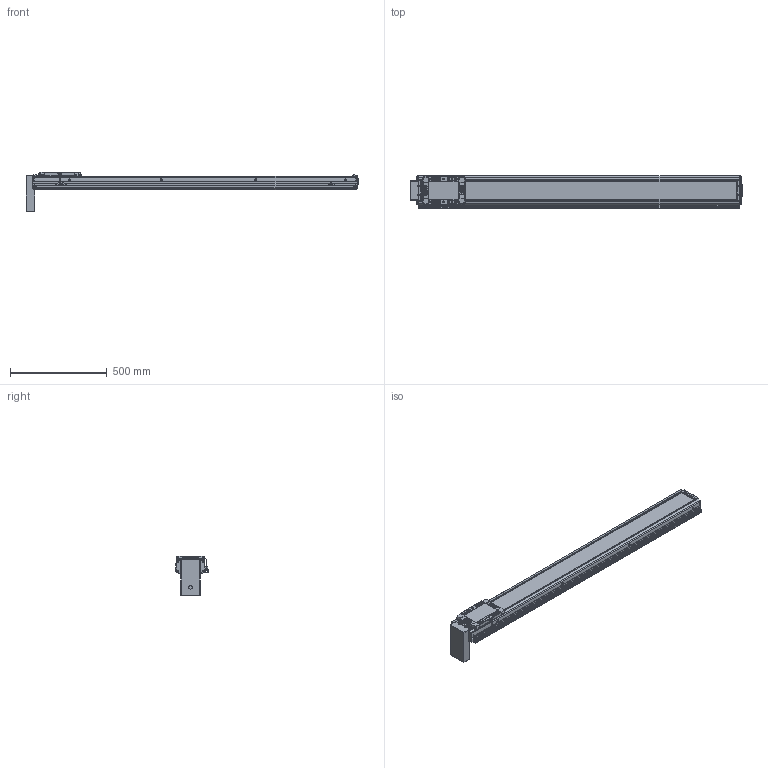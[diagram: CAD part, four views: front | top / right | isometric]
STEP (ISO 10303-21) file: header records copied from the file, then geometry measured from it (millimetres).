
FILE_DESCRIPTION(('STEP AP214'),'1');
FILE_NAME('Z:/Web/3D/SAN150/2013.04 (STP.)/SAN150ㅁㅁ-1400PB+3SR.stp','2013-05-07T08:43:27',(' '),(' '),'Spatial InterOp 3D',' ',' ');
FILE_SCHEMA(('automotive_design'));
Length unit declared in the file: millimetre
Products named in the file (62): SLBL-SAN150; SLCV-SAN150; FHCS M4.0 x 8.0; BHCS M4.0 x 10.0; SFX-SAN150; RRCV-SAN150; FRBL-SAN150; Spacer; RN15; FRCV-SAN150; Screw 20; BASE-SAN150-000L ; SUS COVER; 스크루 : Round - M5.0 x 6.0; PB; 스크루 : Round - M3.0 x 6.0; M3.0 x 6.0; SRL-16x17-360L; SGD-SAN150; EE-SX674; SBK-SX674-352
Bounding box: 1720 x 166 x 205.4 mm (x, y, z)
Volume: 9612009.7 mm3; surface area: 1850696.4 mm2
Topology: 62 solids, 62 shells, 2892 faces, 7432 edges, 4757 vertices
Faces by surface type: plane 1454, cylinder 971, cone 346, sphere 88, bspline 21, torus 12
Entity records: 115042 total; most frequent: CARTESIAN_POINT 18829, DIRECTION 15772, ORIENTED_EDGE 14576, EDGE_CURVE 7288, AXIS2_PLACEMENT_3D 5679, VERTEX_POINT 4757, LINE 4414, VECTOR 4414
